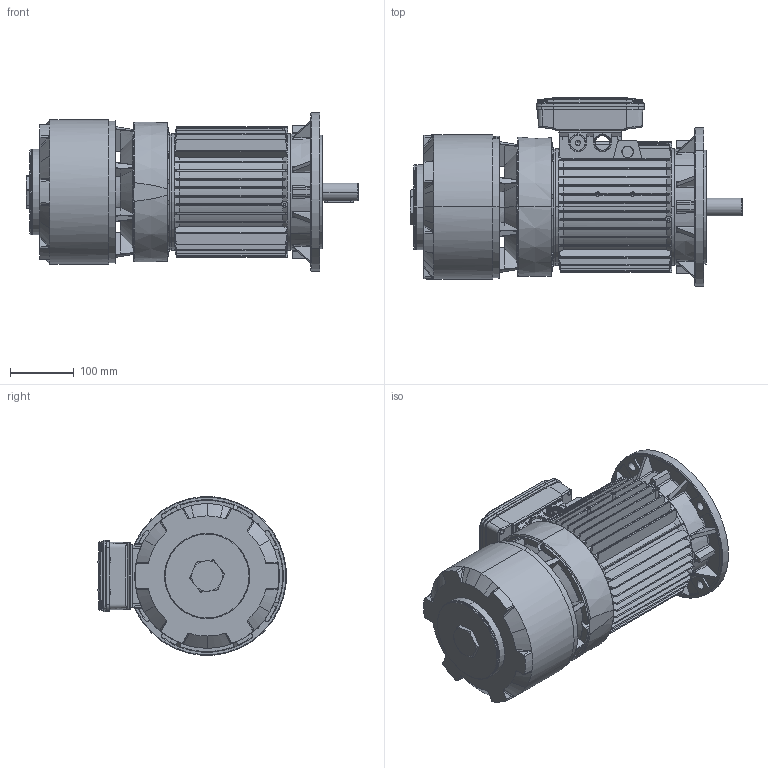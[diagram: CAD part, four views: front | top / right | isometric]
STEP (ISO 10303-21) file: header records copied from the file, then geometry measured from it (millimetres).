
FILE_DESCRIPTION (( 'STEP AP214' ), '1' );
FILE_NAME ('M08HB0011.STEP', '2020-02-06T13:04:06', ( '' ), ( '' ), 'SwSTEP 2.0', 'SolidWorks 2018', '' );
FILE_SCHEMA (( 'AUTOMOTIVE_DESIGN' ));
Length unit declared in the file: millimetre
Products named in the file (14): Scatola per Morsettiera Doppia 90-100-112 - Completa; Guarnizione Coperchio Semplice Scatola BA 90 100 112 - DDAL0094; Vite  a testa bombata M4x16; Coperchio per Scatola per Morsettiera Doppia 90-100-112; Scatola per Morsettiera Doppia 90-100-112; Tappo a testa Esagonale M40x1,5; Getto BAH 112 lavorato - DFEI0018; Scudo Lato Freno BA 112 P1 - DFAE0094; Convogliatore con pista di attrito P2 BAH 112; Scudo a flangia B5 Fi 250 BA-BM 112; Carcassa 112 B5; M08HB0011; Chiavetta 100-112; Albero BA 112
Assembly tree (16 placements, depth 3):
  M08HB0011
    Carcassa 112 B5
    Scudo a flangia B5 Fi 250 BA-BM 112
    Convogliatore con pista di attrito P2 BAH 112
    Scudo Lato Freno BA 112 P1 - DFAE0094
    Getto BAH 112 lavorato - DFEI0018
    Tappo a testa Esagonale M40x1,5
    Scatola per Morsettiera Doppia 90-100-112 - Completa
      Scatola per Morsettiera Doppia 90-100-112
      Coperchio per Scatola per Morsettiera Doppia 90-100-112
      Vite  a testa bombata M4x16  x4
      Guarnizione Coperchio Semplice Scatola BA 90 100 112 - DDAL0094
    Albero BA 112
    Chiavetta 100-112
Bounding box: 522.5 x 296.52 x 249.05 mm (x, y, z)
Volume: 3276185.1 mm3; surface area: 1452524.5 mm2
Topology: 15 solids, 15 shells, 3501 faces, 9320 edges, 5825 vertices
Faces by surface type: plane 993, cylinder 985, bspline 714, torus 427, cone 382
Entity records: 139587 total; most frequent: CARTESIAN_POINT 60743, ORIENTED_EDGE 17708, DIRECTION 13374, EDGE_CURVE 8854, VERTEX_POINT 5597, AXIS2_PLACEMENT_3D 5229, EDGE_LOOP 3525, FACE_OUTER_BOUND 3321
